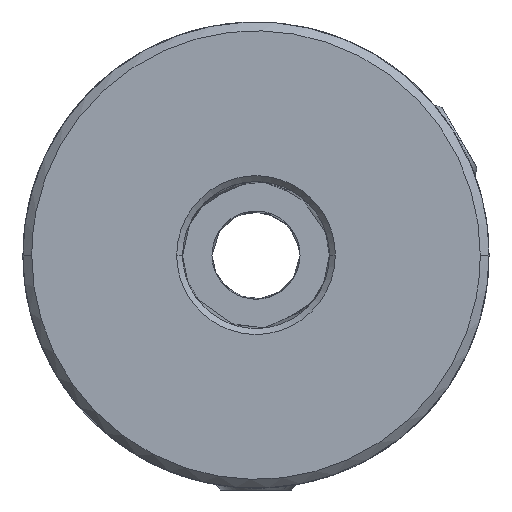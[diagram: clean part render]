
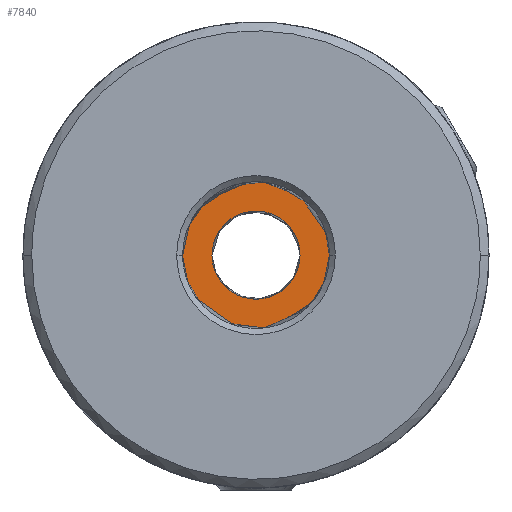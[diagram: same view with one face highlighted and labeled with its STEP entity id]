
A CAD part, front view. The second image highlights one B-rep face of the part: STEP entity #7840.
In plain terms, the highlighted free-form (B-spline) face has degree [3, 3] with [4, 4] control points.
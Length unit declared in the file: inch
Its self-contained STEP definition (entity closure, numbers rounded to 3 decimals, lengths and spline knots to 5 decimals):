
#495=CARTESIAN_POINT('',(-0.50524,0.4054,
0.00003));
#2478=CARTESIAN_POINT('',(-0.0328,0.4054,
0.00003));
#2479=CARTESIAN_POINT('',(-0.0328,0.4054,
0.01395));
#2480=CARTESIAN_POINT('',(-0.03527,0.4054,
0.04283));
#2481=CARTESIAN_POINT('',(-0.04781,0.4054,
0.08725));
#2482=CARTESIAN_POINT('',(-0.06981,0.4054,
0.13006));
#2483=CARTESIAN_POINT('',(-0.10078,0.4054,
0.16827));
#2484=CARTESIAN_POINT('',(-0.13899,0.4054,
0.19924));
#2485=CARTESIAN_POINT('',(-0.17466,0.4054,
0.21758));
#2486=CARTESIAN_POINT('',(-0.20401,0.4054,
0.22752));
#2487=CARTESIAN_POINT('',(-0.22608,0.4054,
0.23268));
#2488=CARTESIAN_POINT('',(-0.24425,0.4054,
0.23514));
#2489=CARTESIAN_POINT('',(-0.25853,0.4054,
0.2361));
#2490=CARTESIAN_POINT('',(-0.26902,0.4054,
0.23633));
#2491=CARTESIAN_POINT('',(-0.27952,0.4054,
0.2361));
#2492=CARTESIAN_POINT('',(-0.29379,0.4054,
0.23514));
#2493=CARTESIAN_POINT('',(-0.31196,0.4054,
0.23268));
#2494=CARTESIAN_POINT('',(-0.33403,0.4054,
0.22752));
#2495=CARTESIAN_POINT('',(-0.36338,0.4054,
0.21758));
#2496=CARTESIAN_POINT('',(-0.39905,0.4054,
0.19924));
#2497=CARTESIAN_POINT('',(-0.43726,0.4054,
0.16827));
#2498=CARTESIAN_POINT('',(-0.46823,0.4054,
0.13006));
#2499=CARTESIAN_POINT('',(-0.49023,0.4054,
0.08725));
#2500=CARTESIAN_POINT('',(-0.50277,0.4054,
0.04283));
#2501=CARTESIAN_POINT('',(-0.50524,0.4054,
0.01395));
#2502=CARTESIAN_POINT('',(-0.50524,0.4054,
0.00003));
#2504=CARTESIAN_POINT('',(-0.50524,0.4054,
0.00003));
#2505=CARTESIAN_POINT('',(-0.50524,0.4054,
-0.01389));
#2506=CARTESIAN_POINT('',(-0.50277,0.4054,
-0.04277));
#2507=CARTESIAN_POINT('',(-0.49023,0.4054,
-0.08719));
#2508=CARTESIAN_POINT('',(-0.46823,0.4054,
-0.13));
#2509=CARTESIAN_POINT('',(-0.43726,0.4054,
-0.16821));
#2510=CARTESIAN_POINT('',(-0.39905,0.4054,
-0.19918));
#2511=CARTESIAN_POINT('',(-0.36338,0.4054,
-0.21751));
#2512=CARTESIAN_POINT('',(-0.33403,0.4054,
-0.22745));
#2513=CARTESIAN_POINT('',(-0.31196,0.4054,
-0.23261));
#2514=CARTESIAN_POINT('',(-0.29379,0.4054,
-0.23508));
#2515=CARTESIAN_POINT('',(-0.27952,0.4054,
-0.23603));
#2516=CARTESIAN_POINT('',(-0.26902,0.4054,
-0.23626));
#2517=CARTESIAN_POINT('',(-0.25853,0.4054,
-0.23603));
#2518=CARTESIAN_POINT('',(-0.24425,0.4054,
-0.23508));
#2519=CARTESIAN_POINT('',(-0.22608,0.4054,
-0.23261));
#2520=CARTESIAN_POINT('',(-0.20401,0.4054,
-0.22745));
#2521=CARTESIAN_POINT('',(-0.17466,0.4054,
-0.21751));
#2522=CARTESIAN_POINT('',(-0.13899,0.4054,
-0.19918));
#2523=CARTESIAN_POINT('',(-0.10078,0.4054,
-0.16821));
#2524=CARTESIAN_POINT('',(-0.06981,0.4054,
-0.13));
#2525=CARTESIAN_POINT('',(-0.04781,0.4054,
-0.08719));
#2526=CARTESIAN_POINT('',(-0.03527,0.4054,
-0.04277));
#2527=CARTESIAN_POINT('',(-0.0328,0.4054,
-0.01389));
#2528=CARTESIAN_POINT('',(-0.0328,0.4054,
0.00003));
#2530=CARTESIAN_POINT('',(-0.15091,0.4054,
0.00003));
#2531=CARTESIAN_POINT('',(-0.15091,0.4054,
-0.01389));
#2532=CARTESIAN_POINT('',(-0.15473,0.4054,
-0.03643));
#2533=CARTESIAN_POINT('',(-0.16942,0.4054,
-0.06498));
#2534=CARTESIAN_POINT('',(-0.1849,0.4054,
-0.08409));
#2535=CARTESIAN_POINT('',(-0.20401,0.4054,
-0.09957));
#2536=CARTESIAN_POINT('',(-0.22541,0.4054,
-0.11057));
#2537=CARTESIAN_POINT('',(-0.24391,0.4054,
-0.1158));
#2538=CARTESIAN_POINT('',(-0.25847,0.4054,
-0.11777));
#2539=CARTESIAN_POINT('',(-0.26902,0.4054,
-0.11823));
#2540=CARTESIAN_POINT('',(-0.27957,0.4054,
-0.11777));
#2541=CARTESIAN_POINT('',(-0.29413,0.4054,
-0.1158));
#2542=CARTESIAN_POINT('',(-0.31263,0.4054,
-0.11057));
#2543=CARTESIAN_POINT('',(-0.33404,0.4054,
-0.09957));
#2544=CARTESIAN_POINT('',(-0.35314,0.4054,
-0.08409));
#2545=CARTESIAN_POINT('',(-0.36862,0.4054,
-0.06498));
#2546=CARTESIAN_POINT('',(-0.38331,0.4054,
-0.03643));
#2547=CARTESIAN_POINT('',(-0.38713,0.4054,
-0.01389));
#2548=CARTESIAN_POINT('',(-0.38713,0.4054,
0.00003));
#2550=CARTESIAN_POINT('',(-0.38713,0.4054,
0.00003));
#2551=CARTESIAN_POINT('',(-0.38713,0.4054,
0.01395));
#2552=CARTESIAN_POINT('',(-0.38331,0.4054,
0.0365));
#2553=CARTESIAN_POINT('',(-0.36862,0.4054,
0.06505));
#2554=CARTESIAN_POINT('',(-0.35314,0.4054,
0.08415));
#2555=CARTESIAN_POINT('',(-0.33404,0.4054,
0.09964));
#2556=CARTESIAN_POINT('',(-0.31263,0.4054,
0.11064));
#2557=CARTESIAN_POINT('',(-0.29413,0.4054,
0.11586));
#2558=CARTESIAN_POINT('',(-0.27957,0.4054,
0.11784));
#2559=CARTESIAN_POINT('',(-0.26902,0.4054,
0.1183));
#2560=CARTESIAN_POINT('',(-0.25847,0.4054,
0.11784));
#2561=CARTESIAN_POINT('',(-0.24391,0.4054,
0.11586));
#2562=CARTESIAN_POINT('',(-0.22541,0.4054,
0.11064));
#2563=CARTESIAN_POINT('',(-0.20401,0.4054,
0.09964));
#2564=CARTESIAN_POINT('',(-0.1849,0.4054,
0.08415));
#2565=CARTESIAN_POINT('',(-0.16942,0.4054,
0.06505));
#2566=CARTESIAN_POINT('',(-0.15473,0.4054,
0.0365));
#2567=CARTESIAN_POINT('',(-0.15091,0.4054,
0.01395));
#2568=CARTESIAN_POINT('',(-0.15091,0.4054,
0.00003));
#2598=CARTESIAN_POINT('',(-0.15091,0.4054,
0.00003));
#2603=CARTESIAN_POINT('',(-0.38713,0.4054,
0.00003));
#3628=VERTEX_POINT('',#495);
#3632=VERTEX_POINT('',#2528);
#3698=VERTEX_POINT('',#2603);
#3700=VERTEX_POINT('',#2598);
#7813=CARTESIAN_POINT('',(-0.51469,0.4054,
0.2457));
#7814=CARTESIAN_POINT('',(-0.35091,0.4054,
0.2457));
#7815=CARTESIAN_POINT('',(-0.18713,0.4054,
0.2457));
#7816=CARTESIAN_POINT('',(-0.02335,0.4054,
0.2457));
#7817=CARTESIAN_POINT('',(-0.51469,0.4054,
0.08192));
#7818=CARTESIAN_POINT('',(-0.35091,0.4054,
0.08192));
#7819=CARTESIAN_POINT('',(-0.18713,0.4054,
0.08192));
#7820=CARTESIAN_POINT('',(-0.02335,0.4054,
0.08192));
#7821=CARTESIAN_POINT('',(-0.51469,0.4054,
-0.08186));
#7822=CARTESIAN_POINT('',(-0.35091,0.4054,
-0.08186));
#7823=CARTESIAN_POINT('',(-0.18713,0.4054,
-0.08186));
#7824=CARTESIAN_POINT('',(-0.02335,0.4054,
-0.08186));
#7825=CARTESIAN_POINT('',(-0.51469,0.4054,
-0.24564));
#7826=CARTESIAN_POINT('',(-0.35091,0.4054,
-0.24564));
#7827=CARTESIAN_POINT('',(-0.18713,0.4054,
-0.24564));
#7828=CARTESIAN_POINT('',(-0.02335,0.4054,
-0.24564));
#7829=B_SPLINE_SURFACE_WITH_KNOTS('',3,3,((#7813,#7814,#7815,#7816),(#7817,
#7818,#7819,#7820),(#7821,#7822,#7823,#7824),(#7825,#7826,#7827,#7828)),
.UNSPECIFIED.,.F.,.F.,.F.,(4,4),(4,4),(-0.624,0.624),(
-0.624,0.624),.UNSPECIFIED.);
#7830=ORIENTED_EDGE('',*,*,#4273,.F.);
#7831=ORIENTED_EDGE('',*,*,#4138,.F.);
#7832=EDGE_LOOP('',(#7830,#7831));
#7833=FACE_OUTER_BOUND('',#7832,.F.);
#7835=ORIENTED_EDGE('',*,*,#7834,.F.);
#7837=ORIENTED_EDGE('',*,*,#7836,.F.);
#7838=EDGE_LOOP('',(#7835,#7837));
#7839=FACE_BOUND('',#7838,.F.);
#2503=B_SPLINE_CURVE_WITH_KNOTS('',3,(#2478,#2479,#2480,#2481,#2482,#2483,#2484,
#2485,#2486,#2487,#2488,#2489,#2490,#2491,#2492,#2493,#2494,#2495,#2496,#2497,
#2498,#2499,#2500,#2501,#2502),.UNSPECIFIED.,.F.,.F.,(4,1,1,1,1,1,1,1,1,1,1,1,1,
1,1,1,1,1,1,1,1,1,4),(0.,0.0625,0.125,0.1875,0.25,0.3125,0.375,
0.40625,0.4375,0.46875,0.48438,0.5,0.51563,0.53125,0.5625,
0.59375,0.625,0.6875,0.75,0.8125,0.875,0.9375,1.),
.UNSPECIFIED.);
#2529=B_SPLINE_CURVE_WITH_KNOTS('',3,(#2504,#2505,#2506,#2507,#2508,#2509,#2510,
#2511,#2512,#2513,#2514,#2515,#2516,#2517,#2518,#2519,#2520,#2521,#2522,#2523,
#2524,#2525,#2526,#2527,#2528),.UNSPECIFIED.,.F.,.F.,(4,1,1,1,1,1,1,1,1,1,1,1,1,
1,1,1,1,1,1,1,1,1,4),(0.,0.0625,0.125,0.1875,0.25,0.3125,0.375,
0.40625,0.4375,0.46875,0.48438,0.5,0.51563,0.53125,0.5625,
0.59375,0.625,0.6875,0.75,0.8125,0.875,0.9375,1.),
.UNSPECIFIED.);
#2549=B_SPLINE_CURVE_WITH_KNOTS('',3,(#2530,#2531,#2532,#2533,#2534,#2535,#2536,
#2537,#2538,#2539,#2540,#2541,#2542,#2543,#2544,#2545,#2546,#2547,#2548),
.UNSPECIFIED.,.F.,.F.,(4,1,1,1,1,1,1,1,1,1,1,1,1,1,1,1,4),(0.,0.125,
0.1875,0.25,0.3125,0.375,0.4375,0.46875,0.5,0.53125,0.5625,
0.625,0.6875,0.75,0.8125,0.875,1.),.UNSPECIFIED.);
#2569=B_SPLINE_CURVE_WITH_KNOTS('',3,(#2550,#2551,#2552,#2553,#2554,#2555,#2556,
#2557,#2558,#2559,#2560,#2561,#2562,#2563,#2564,#2565,#2566,#2567,#2568),
.UNSPECIFIED.,.F.,.F.,(4,1,1,1,1,1,1,1,1,1,1,1,1,1,1,1,4),(0.,0.125,
0.1875,0.25,0.3125,0.375,0.4375,0.46875,0.5,0.53125,0.5625,
0.625,0.6875,0.75,0.8125,0.875,1.),.UNSPECIFIED.);
#4138=EDGE_CURVE('',#3628,#3632,#2529,.T.);
#4273=EDGE_CURVE('',#3632,#3628,#2503,.T.);
#7834=EDGE_CURVE('',#3700,#3698,#2549,.T.);
#7836=EDGE_CURVE('',#3698,#3700,#2569,.T.);
#7840=ADVANCED_FACE('',(#7833,#7839),#7829,.T.);
